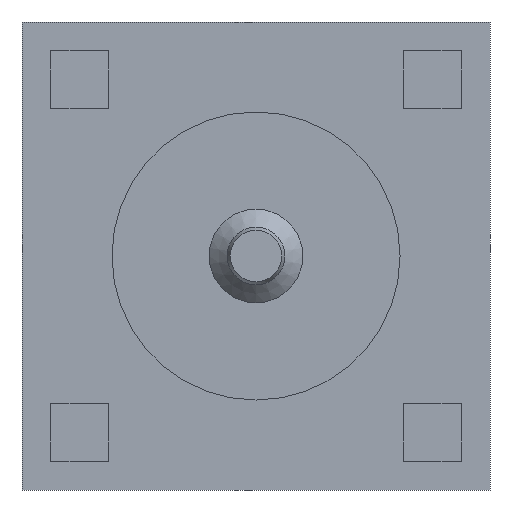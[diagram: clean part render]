
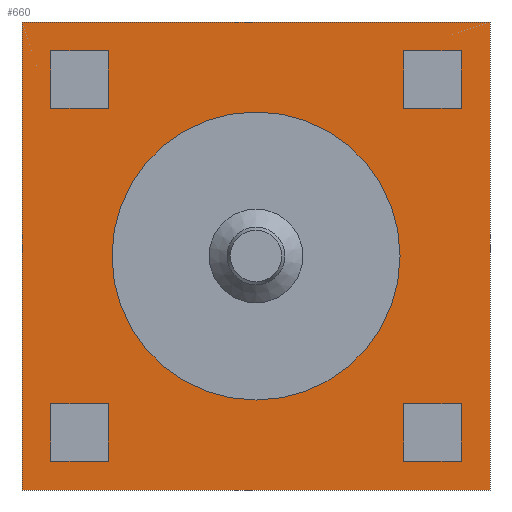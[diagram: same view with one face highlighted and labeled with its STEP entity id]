
A CAD part, front view. The second image highlights one B-rep face of the part: STEP entity #660.
In plain terms, the highlighted planar face has unit normal (0, -1, 0).
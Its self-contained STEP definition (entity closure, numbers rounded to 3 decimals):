
#412=CARTESIAN_POINT('',(2.85,4.,-2.05));
#413=VERTEX_POINT('',#412);
#420=CARTESIAN_POINT('',(2.05,4.,-2.05));
#421=VERTEX_POINT('',#420);
#422=CARTESIAN_POINT('',(2.05,4.,-2.05));
#423=DIRECTION('',(1.,0.,-0.));
#424=VECTOR('',#423,0.8);
#425=LINE('',#422,#424);
#426=EDGE_CURVE('',#421,#413,#425,.T.);
#444=CARTESIAN_POINT('',(2.05,4.,-2.85));
#445=VERTEX_POINT('',#444);
#446=CARTESIAN_POINT('',(2.05,4.,-2.85));
#447=DIRECTION('',(-0.,0.,1.));
#448=VECTOR('',#447,0.8);
#449=LINE('',#446,#448);
#450=EDGE_CURVE('NONE',#445,#421,#449,.T.);
#468=CARTESIAN_POINT('',(2.85,4.,-2.85));
#469=VERTEX_POINT('',#468);
#470=CARTESIAN_POINT('',(2.85,4.,-2.85));
#471=DIRECTION('',(-1.,0.,-0.));
#472=VECTOR('',#471,0.8);
#473=LINE('',#470,#472);
#474=EDGE_CURVE('NONE',#469,#445,#473,.T.);
#492=CARTESIAN_POINT('',(2.85,4.,-2.05));
#493=DIRECTION('',(-0.,0.,-1.));
#494=VECTOR('',#493,0.8);
#495=LINE('',#492,#494);
#496=EDGE_CURVE('NONE',#413,#469,#495,.T.);
#502=CARTESIAN_POINT('',(0.,4.,0.));
#503=DIRECTION('',(0.,1.,0.));
#504=DIRECTION('',(0.,0.,1.));
#505=AXIS2_PLACEMENT_3D('',#502,#503,#504);
#506=PLANE('',#505);
#507=CARTESIAN_POINT('',(-0.,4.,-2.));
#508=VERTEX_POINT('',#507);
#509=CARTESIAN_POINT('',(0.,4.,0.));
#510=DIRECTION('',(-0.,1.,-0.));
#511=DIRECTION('',(0.,0.,-1.));
#512=AXIS2_PLACEMENT_3D('',#509,#510,#511);
#513=CIRCLE('',#512,2.);
#514=EDGE_CURVE('NONE',#508,#508,#513,.T.);
#515=ORIENTED_EDGE('',*,*,#514,.T.);
#516=EDGE_LOOP('',(#515));
#517=FACE_BOUND('',#516,.T.);
#518=CARTESIAN_POINT('',(3.25,4.,-3.25));
#519=VERTEX_POINT('',#518);
#520=CARTESIAN_POINT('',(3.25,4.,3.25));
#521=VERTEX_POINT('',#520);
#522=CARTESIAN_POINT('',(3.25,4.,-3.25));
#523=DIRECTION('',(0.,0.,1.));
#524=VECTOR('',#523,6.5);
#525=LINE('',#522,#524);
#526=EDGE_CURVE('NONE',#519,#521,#525,.T.);
#527=ORIENTED_EDGE('',*,*,#526,.T.);
#528=CARTESIAN_POINT('',(-3.25,4.,3.25));
#529=VERTEX_POINT('',#528);
#530=CARTESIAN_POINT('',(-3.25,4.,3.25));
#531=DIRECTION('',(1.,-0.,-0.));
#532=VECTOR('',#531,6.5);
#533=LINE('',#530,#532);
#534=EDGE_CURVE('NONE',#529,#521,#533,.T.);
#535=ORIENTED_EDGE('',*,*,#534,.F.);
#536=CARTESIAN_POINT('',(-3.25,4.,-3.25));
#537=VERTEX_POINT('',#536);
#538=CARTESIAN_POINT('',(-3.25,4.,-3.25));
#539=DIRECTION('',(0.,-0.,1.));
#540=VECTOR('',#539,6.5);
#541=LINE('',#538,#540);
#542=EDGE_CURVE('NONE',#537,#529,#541,.T.);
#543=ORIENTED_EDGE('',*,*,#542,.F.);
#544=CARTESIAN_POINT('',(-3.25,4.,-3.25));
#545=DIRECTION('',(1.,0.,-0.));
#546=VECTOR('',#545,6.5);
#547=LINE('',#544,#546);
#548=EDGE_CURVE('NONE',#537,#519,#547,.T.);
#549=ORIENTED_EDGE('',*,*,#548,.T.);
#550=EDGE_LOOP('',(#527,#535,#543,#549));
#551=FACE_BOUND('',#550,.T.);
#552=CARTESIAN_POINT('',(-2.85,4.,2.05));
#553=VERTEX_POINT('',#552);
#554=CARTESIAN_POINT('',(-2.85,4.,2.85));
#555=VERTEX_POINT('',#554);
#556=CARTESIAN_POINT('',(-2.85,4.,2.05));
#557=DIRECTION('',(0.,0.,1.));
#558=VECTOR('',#557,0.8);
#559=LINE('',#556,#558);
#560=EDGE_CURVE('NONE',#553,#555,#559,.T.);
#561=ORIENTED_EDGE('',*,*,#560,.T.);
#562=CARTESIAN_POINT('',(-2.05,4.,2.85));
#563=VERTEX_POINT('',#562);
#564=CARTESIAN_POINT('',(-2.85,4.,2.85));
#565=DIRECTION('',(1.,0.,0.));
#566=VECTOR('',#565,0.8);
#567=LINE('',#564,#566);
#568=EDGE_CURVE('NONE',#555,#563,#567,.T.);
#569=ORIENTED_EDGE('',*,*,#568,.T.);
#570=CARTESIAN_POINT('',(-2.05,4.,2.05));
#571=VERTEX_POINT('',#570);
#572=CARTESIAN_POINT('',(-2.05,4.,2.85));
#573=DIRECTION('',(0.,0.,-1.));
#574=VECTOR('',#573,0.8);
#575=LINE('',#572,#574);
#576=EDGE_CURVE('NONE',#563,#571,#575,.T.);
#577=ORIENTED_EDGE('',*,*,#576,.T.);
#578=CARTESIAN_POINT('',(-2.05,4.,2.05));
#579=DIRECTION('',(-1.,0.,0.));
#580=VECTOR('',#579,0.8);
#581=LINE('',#578,#580);
#582=EDGE_CURVE('',#571,#553,#581,.T.);
#583=ORIENTED_EDGE('',*,*,#582,.T.);
#584=EDGE_LOOP('',(#561,#569,#577,#583));
#585=FACE_BOUND('',#584,.T.);
#586=CARTESIAN_POINT('',(2.05,4.,2.05));
#587=VERTEX_POINT('',#586);
#588=CARTESIAN_POINT('',(2.85,4.,2.05));
#589=VERTEX_POINT('',#588);
#590=CARTESIAN_POINT('',(2.05,4.,2.05));
#591=DIRECTION('',(1.,0.,0.));
#592=VECTOR('',#591,0.8);
#593=LINE('',#590,#592);
#594=EDGE_CURVE('',#587,#589,#593,.T.);
#595=ORIENTED_EDGE('',*,*,#594,.F.);
#596=CARTESIAN_POINT('',(2.05,4.,2.85));
#597=VERTEX_POINT('',#596);
#598=CARTESIAN_POINT('',(2.05,4.,2.85));
#599=DIRECTION('',(-0.,0.,-1.));
#600=VECTOR('',#599,0.8);
#601=LINE('',#598,#600);
#602=EDGE_CURVE('NONE',#597,#587,#601,.T.);
#603=ORIENTED_EDGE('',*,*,#602,.F.);
#604=CARTESIAN_POINT('',(2.85,4.,2.85));
#605=VERTEX_POINT('',#604);
#606=CARTESIAN_POINT('',(2.85,4.,2.85));
#607=DIRECTION('',(-1.,0.,0.));
#608=VECTOR('',#607,0.8);
#609=LINE('',#606,#608);
#610=EDGE_CURVE('NONE',#605,#597,#609,.T.);
#611=ORIENTED_EDGE('',*,*,#610,.F.);
#612=CARTESIAN_POINT('',(2.85,4.,2.05));
#613=DIRECTION('',(-0.,0.,1.));
#614=VECTOR('',#613,0.8);
#615=LINE('',#612,#614);
#616=EDGE_CURVE('NONE',#589,#605,#615,.T.);
#617=ORIENTED_EDGE('',*,*,#616,.F.);
#618=EDGE_LOOP('',(#595,#603,#611,#617));
#619=FACE_BOUND('',#618,.T.);
#620=CARTESIAN_POINT('',(-2.85,4.,-2.05));
#621=VERTEX_POINT('',#620);
#622=CARTESIAN_POINT('',(-2.85,4.,-2.85));
#623=VERTEX_POINT('',#622);
#624=CARTESIAN_POINT('',(-2.85,4.,-2.05));
#625=DIRECTION('',(0.,0.,-1.));
#626=VECTOR('',#625,0.8);
#627=LINE('',#624,#626);
#628=EDGE_CURVE('NONE',#621,#623,#627,.T.);
#629=ORIENTED_EDGE('',*,*,#628,.F.);
#630=CARTESIAN_POINT('',(-2.05,4.,-2.05));
#631=VERTEX_POINT('',#630);
#632=CARTESIAN_POINT('',(-2.05,4.,-2.05));
#633=DIRECTION('',(-1.,0.,-0.));
#634=VECTOR('',#633,0.8);
#635=LINE('',#632,#634);
#636=EDGE_CURVE('',#631,#621,#635,.T.);
#637=ORIENTED_EDGE('',*,*,#636,.F.);
#638=CARTESIAN_POINT('',(-2.05,4.,-2.85));
#639=VERTEX_POINT('',#638);
#640=CARTESIAN_POINT('',(-2.05,4.,-2.85));
#641=DIRECTION('',(0.,0.,1.));
#642=VECTOR('',#641,0.8);
#643=LINE('',#640,#642);
#644=EDGE_CURVE('NONE',#639,#631,#643,.T.);
#645=ORIENTED_EDGE('',*,*,#644,.F.);
#646=CARTESIAN_POINT('',(-2.85,4.,-2.85));
#647=DIRECTION('',(1.,0.,-0.));
#648=VECTOR('',#647,0.8);
#649=LINE('',#646,#648);
#650=EDGE_CURVE('NONE',#623,#639,#649,.T.);
#651=ORIENTED_EDGE('',*,*,#650,.F.);
#652=EDGE_LOOP('',(#629,#637,#645,#651));
#653=FACE_BOUND('',#652,.T.);
#654=ORIENTED_EDGE('',*,*,#450,.T.);
#655=ORIENTED_EDGE('',*,*,#426,.T.);
#656=ORIENTED_EDGE('',*,*,#496,.T.);
#657=ORIENTED_EDGE('',*,*,#474,.T.);
#658=EDGE_LOOP('',(#654,#655,#656,#657));
#659=FACE_BOUND('',#658,.T.);
#660=ADVANCED_FACE('',(#517,#551,#585,#619,#653,#659),#506,.F.);
